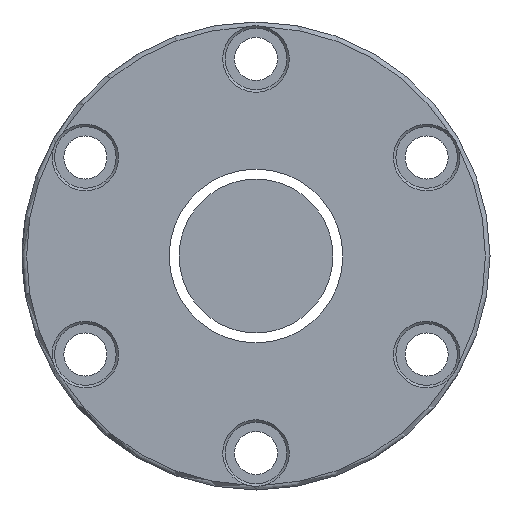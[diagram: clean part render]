
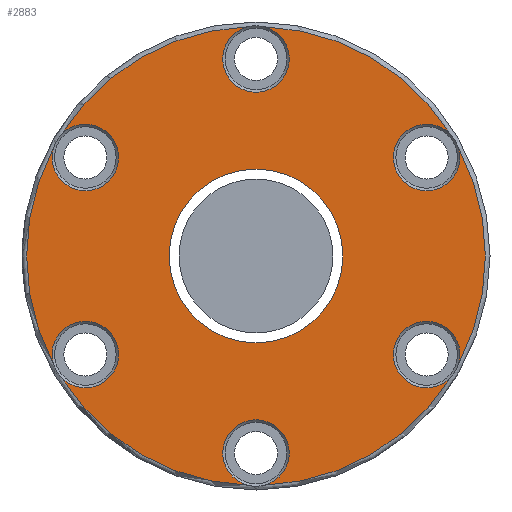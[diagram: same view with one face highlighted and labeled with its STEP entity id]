
A CAD part, left-side view. The second image highlights one B-rep face of the part: STEP entity #2883.
In plain terms, the highlighted planar face has unit normal (-1, 0, 0).
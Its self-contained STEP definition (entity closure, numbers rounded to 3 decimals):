
#11 = DIRECTION ( 'NONE',  ( 1., 0., 0. ) ) ;
#56 = CIRCLE ( 'NONE', #938, 10.8 ) ;
#69 = VERTEX_POINT ( 'NONE', #643 ) ;
#72 = CARTESIAN_POINT ( 'NONE',  ( -121., 0., 0. ) ) ;
#105 = AXIS2_PLACEMENT_3D ( 'NONE', #1765, #2477, #1746 ) ;
#120 = ORIENTED_EDGE ( 'NONE', *, *, #182, .T. ) ;
#134 = ORIENTED_EDGE ( 'NONE', *, *, #136, .T. ) ;
#136 = EDGE_CURVE ( 'NONE', #1265, #1105, #2354, .T. ) ;
#179 = CARTESIAN_POINT ( 'NONE',  ( -121., -65.839, 34.863 ) ) ;
#182 = EDGE_CURVE ( 'NONE', #2241, #1265, #2515, .T. ) ;
#213 = CARTESIAN_POINT ( 'NONE',  ( -121., 63.112, -39.587 ) ) ;
#216 = CIRCLE ( 'NONE', #1229, 10.8 ) ;
#229 = CARTESIAN_POINT ( 'NONE',  ( -121., 55.426, 32. ) ) ;
#290 = EDGE_CURVE ( 'NONE', #2785, #1698, #2845, .T. ) ;
#293 = CIRCLE ( 'NONE', #2113, 10.8 ) ;
#313 = ORIENTED_EDGE ( 'NONE', *, *, #1808, .T. ) ;
#369 = DIRECTION ( 'NONE',  ( 0., 0., -1. ) ) ;
#405 = AXIS2_PLACEMENT_3D ( 'NONE', #229, #1184, #1379 ) ;
#407 = FACE_OUTER_BOUND ( 'NONE', #2409, .T. ) ;
#437 = CARTESIAN_POINT ( 'NONE',  ( -121., 55.426, -32. ) ) ;
#450 = AXIS2_PLACEMENT_3D ( 'NONE', #437, #1625, #3029 ) ;
#456 = AXIS2_PLACEMENT_3D ( 'NONE', #2209, #2709, #3028 ) ;
#482 = CARTESIAN_POINT ( 'NONE',  ( -121., 0., -28.2 ) ) ;
#521 = DIRECTION ( 'NONE',  ( 0., 0., 1. ) ) ;
#562 = CARTESIAN_POINT ( 'NONE',  ( -121., 0., 0. ) ) ;
#643 = CARTESIAN_POINT ( 'NONE',  ( -121., 63.112, 39.587 ) ) ;
#650 = FACE_BOUND ( 'NONE', #1053, .T. ) ;
#653 = CIRCLE ( 'NONE', #2271, 74.5 ) ;
#699 = CARTESIAN_POINT ( 'NONE',  ( -121., 65.839, 34.863 ) ) ;
#707 = EDGE_CURVE ( 'NONE', #1698, #2532, #56, .T. ) ;
#715 = CARTESIAN_POINT ( 'NONE',  ( -121., -65.839, -34.863 ) ) ;
#736 = CIRCLE ( 'NONE', #456, 74.5 ) ;
#811 = DIRECTION ( 'NONE',  ( -1., 0., 0. ) ) ;
#847 = DIRECTION ( 'NONE',  ( 0., 0., 1. ) ) ;
#877 = ORIENTED_EDGE ( 'NONE', *, *, #1942, .T. ) ;
#902 = CIRCLE ( 'NONE', #1283, 28.2 ) ;
#910 = VERTEX_POINT ( 'NONE', #2056 ) ;
#938 = AXIS2_PLACEMENT_3D ( 'NONE', #1544, #2023, #2939 ) ;
#1036 = DIRECTION ( 'NONE',  ( 1., 0., 0. ) ) ;
#1047 = CARTESIAN_POINT ( 'NONE',  ( -121., 0., 0. ) ) ;
#1053 = EDGE_LOOP ( 'NONE', ( #877 ) ) ;
#1061 = ORIENTED_EDGE ( 'NONE', *, *, #1859, .T. ) ;
#1105 = VERTEX_POINT ( 'NONE', #3019 ) ;
#1124 = EDGE_CURVE ( 'NONE', #69, #3008, #2599, .T. ) ;
#1132 = CARTESIAN_POINT ( 'NONE',  ( -121., -63.112, 39.587 ) ) ;
#1184 = DIRECTION ( 'NONE',  ( 1., 0., 0. ) ) ;
#1191 = VERTEX_POINT ( 'NONE', #482 ) ;
#1229 = AXIS2_PLACEMENT_3D ( 'NONE', #1511, #2031, #2965 ) ;
#1237 = CARTESIAN_POINT ( 'NONE',  ( -121., 0., 0. ) ) ;
#1247 = EDGE_CURVE ( 'NONE', #1105, #910, #293, .T. ) ;
#1265 = VERTEX_POINT ( 'NONE', #1132 ) ;
#1267 = ORIENTED_EDGE ( 'NONE', *, *, #1247, .T. ) ;
#1277 = ORIENTED_EDGE ( 'NONE', *, *, #707, .T. ) ;
#1281 = CIRCLE ( 'NONE', #2563, 74.5 ) ;
#1283 = AXIS2_PLACEMENT_3D ( 'NONE', #562, #1036, #369 ) ;
#1314 = DIRECTION ( 'NONE',  ( 0., 0., 1. ) ) ;
#1346 = CIRCLE ( 'NONE', #2713, 74.5 ) ;
#1364 = ORIENTED_EDGE ( 'NONE', *, *, #2309, .T. ) ;
#1379 = DIRECTION ( 'NONE',  ( 0., 0., 1. ) ) ;
#1382 = CARTESIAN_POINT ( 'NONE',  ( -121., 0., 0. ) ) ;
#1387 = CARTESIAN_POINT ( 'NONE',  ( -121., 65.839, -34.863 ) ) ;
#1401 = CARTESIAN_POINT ( 'NONE',  ( -121., 2.727, -74.45 ) ) ;
#1422 = AXIS2_PLACEMENT_3D ( 'NONE', #72, #2629, #521 ) ;
#1509 = VERTEX_POINT ( 'NONE', #1873 ) ;
#1511 = CARTESIAN_POINT ( 'NONE',  ( -121., -55.426, -32. ) ) ;
#1516 = DIRECTION ( 'NONE',  ( -1., 0., 0. ) ) ;
#1544 = CARTESIAN_POINT ( 'NONE',  ( -121., 0., -64. ) ) ;
#1576 = CIRCLE ( 'NONE', #450, 10.8 ) ;
#1591 = ORIENTED_EDGE ( 'NONE', *, *, #2884, .T. ) ;
#1614 = CARTESIAN_POINT ( 'NONE',  ( -121., 0., 64. ) ) ;
#1625 = DIRECTION ( 'NONE',  ( 1., 0., 0. ) ) ;
#1698 = VERTEX_POINT ( 'NONE', #1401 ) ;
#1733 = DIRECTION ( 'NONE',  ( -1., 0., 0. ) ) ;
#1746 = DIRECTION ( 'NONE',  ( 0., 0., 1. ) ) ;
#1765 = CARTESIAN_POINT ( 'NONE',  ( -121., -55.426, 32. ) ) ;
#1808 = EDGE_CURVE ( 'NONE', #2964, #2785, #1576, .T. ) ;
#1845 = DIRECTION ( 'NONE',  ( -1., 0., 0. ) ) ;
#1859 = EDGE_CURVE ( 'NONE', #910, #69, #1281, .T. ) ;
#1873 = CARTESIAN_POINT ( 'NONE',  ( -121., -63.112, -39.587 ) ) ;
#1942 = EDGE_CURVE ( 'NONE', #1191, #1191, #902, .T. ) ;
#2021 = DIRECTION ( 'NONE',  ( 0., 0., 1. ) ) ;
#2023 = DIRECTION ( 'NONE',  ( 1., 0., 0. ) ) ;
#2031 = DIRECTION ( 'NONE',  ( 1., 0., 0. ) ) ;
#2056 = CARTESIAN_POINT ( 'NONE',  ( -121., 2.727, 74.45 ) ) ;
#2086 = DIRECTION ( 'NONE',  ( 0., 0., 1. ) ) ;
#2113 = AXIS2_PLACEMENT_3D ( 'NONE', #1614, #11, #2086 ) ;
#2150 = EDGE_CURVE ( 'NONE', #1509, #2685, #216, .T. ) ;
#2209 = CARTESIAN_POINT ( 'NONE',  ( -121., 0., 0. ) ) ;
#2230 = ORIENTED_EDGE ( 'NONE', *, *, #2340, .T. ) ;
#2241 = VERTEX_POINT ( 'NONE', #179 ) ;
#2271 = AXIS2_PLACEMENT_3D ( 'NONE', #1382, #2980, #3010 ) ;
#2291 = CARTESIAN_POINT ( 'NONE',  ( -121., 0., 0. ) ) ;
#2302 = ORIENTED_EDGE ( 'NONE', *, *, #290, .T. ) ;
#2309 = EDGE_CURVE ( 'NONE', #3008, #2964, #653, .T. ) ;
#2340 = EDGE_CURVE ( 'NONE', #2532, #1509, #1346, .T. ) ;
#2354 = CIRCLE ( 'NONE', #2997, 74.5 ) ;
#2409 = EDGE_LOOP ( 'NONE', ( #1267, #1061, #2677, #1364, #313, #2302, #1277, #2230, #2928, #1591, #120, #134 ) ) ;
#2442 = PLANE ( 'NONE',  #2608 ) ;
#2460 = CARTESIAN_POINT ( 'NONE',  ( -121., 76., 0. ) ) ;
#2477 = DIRECTION ( 'NONE',  ( 1., 0., 0. ) ) ;
#2508 = DIRECTION ( 'NONE',  ( 0., 0., 1. ) ) ;
#2515 = CIRCLE ( 'NONE', #105, 10.8 ) ;
#2532 = VERTEX_POINT ( 'NONE', #2546 ) ;
#2546 = CARTESIAN_POINT ( 'NONE',  ( -121., -2.727, -74.45 ) ) ;
#2563 = AXIS2_PLACEMENT_3D ( 'NONE', #1047, #1733, #2021 ) ;
#2599 = CIRCLE ( 'NONE', #405, 10.8 ) ;
#2608 = AXIS2_PLACEMENT_3D ( 'NONE', #2460, #1516, #1314 ) ;
#2629 = DIRECTION ( 'NONE',  ( -1., 0., 0. ) ) ;
#2677 = ORIENTED_EDGE ( 'NONE', *, *, #1124, .T. ) ;
#2685 = VERTEX_POINT ( 'NONE', #715 ) ;
#2709 = DIRECTION ( 'NONE',  ( -1., 0., 0. ) ) ;
#2713 = AXIS2_PLACEMENT_3D ( 'NONE', #2291, #1845, #2508 ) ;
#2785 = VERTEX_POINT ( 'NONE', #213 ) ;
#2845 = CIRCLE ( 'NONE', #1422, 74.5 ) ;
#2883 = ADVANCED_FACE ( 'NONE', ( #407, #650 ), #2442, .T. ) ;
#2884 = EDGE_CURVE ( 'NONE', #2685, #2241, #736, .T. ) ;
#2928 = ORIENTED_EDGE ( 'NONE', *, *, #2150, .T. ) ;
#2939 = DIRECTION ( 'NONE',  ( 0., 0., 1. ) ) ;
#2964 = VERTEX_POINT ( 'NONE', #1387 ) ;
#2965 = DIRECTION ( 'NONE',  ( 0., 0., 1. ) ) ;
#2980 = DIRECTION ( 'NONE',  ( -1., 0., 0. ) ) ;
#2997 = AXIS2_PLACEMENT_3D ( 'NONE', #1237, #811, #847 ) ;
#3008 = VERTEX_POINT ( 'NONE', #699 ) ;
#3010 = DIRECTION ( 'NONE',  ( 0., 0., 1. ) ) ;
#3019 = CARTESIAN_POINT ( 'NONE',  ( -121., -2.727, 74.45 ) ) ;
#3028 = DIRECTION ( 'NONE',  ( 0., 0., 1. ) ) ;
#3029 = DIRECTION ( 'NONE',  ( 0., 0., 1. ) ) ;
